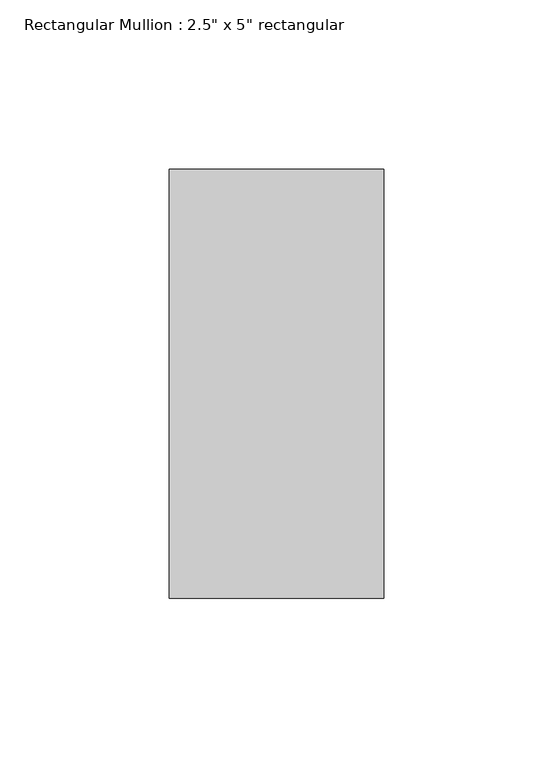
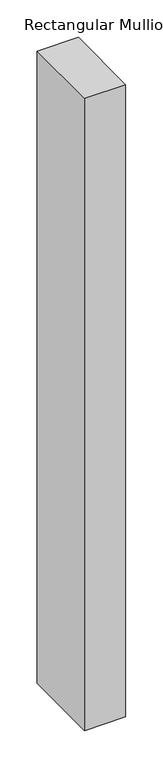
"""IFC4 building model written with IfcOpenShell, lengths in millimetres: member geometry."""

from ifc_helpers import new_model, si_unit, frame, origin, place, context, project, spatial, polyline, outline, extrude, source, transform, mapped, element, save


def member_ac28e731(model_context):
    return source(origin(), model_context, "Body", "SweptSolid", [
        extrude(outline(polyline([(31.75, 63.5), (31.75, -63.5), (-31.75, -63.5), (-31.75, 63.5), (31.75, 63.5)])), frame((0.0, 0.0, -1032.5100002), z_axis=(0.0, 0.0, 1.0), x_axis=(1.0, 0.0, 0.0)), (0.0, 0.0, 1.0), 1032.5100002),
    ])


if __name__ == "__main__":
    model = new_model("IFC4")
    model_context = context("Model", 3, world=origin())
    ifc_project = project(units=[si_unit("LENGTHUNIT", "METRE", prefix="MILLI")], contexts=[model_context])
    site = spatial("IfcSite", under=ifc_project)
    building = spatial("IfcBuilding", under=site)
    placement = place(None, origin())
    member_shape = member_ac28e731(model_context)
    element("IfcMember", 1, ObjectType="Rectangular Mullion : 2.5\" x 5\" rectangular", at=placement, inside=building, context=model_context, shape_type="MappedRepresentation", body=[
        mapped(member_shape, transform((0.0, 0.0, 0.0), x_axis=(1.0, 0.0, 0.0), y_axis=(0.0, 1.0, 0.0), z_axis=(0.0, 0.0, 1.0))),
    ])
    save(model, "model.ifc")
